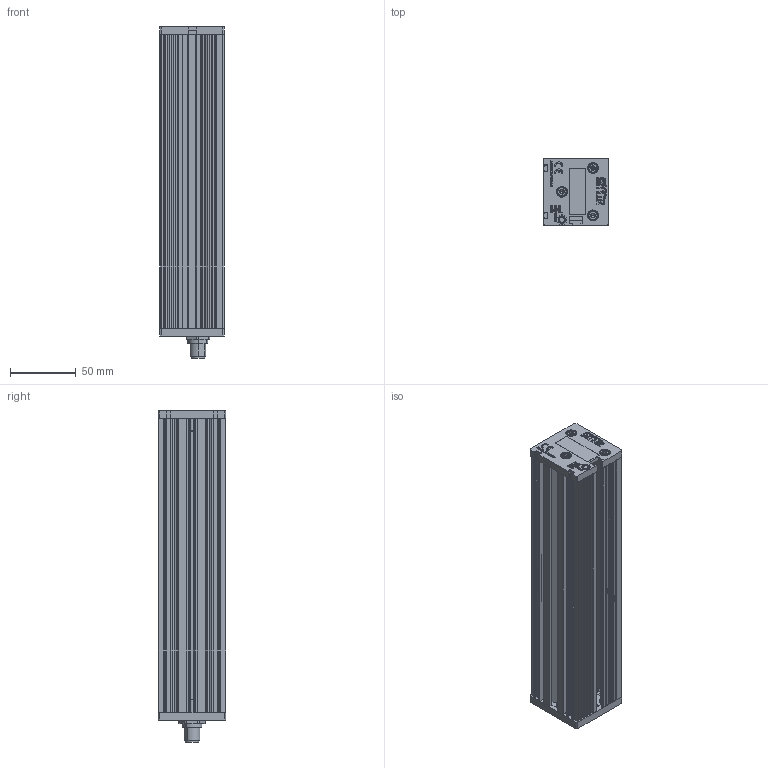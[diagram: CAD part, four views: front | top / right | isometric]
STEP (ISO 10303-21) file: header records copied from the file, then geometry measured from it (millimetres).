
FILE_DESCRIPTION (( 'STEP AP203' ), '1' );
FILE_NAME ('008846A.STEP', '2018-10-15T10:28:10', ( '' ), ( '' ), 'SwSTEP 2.0', 'SolidWorks 2018', '' );
FILE_SCHEMA (( 'CONFIG_CONTROL_DESIGN' ));
Products named in the file (2): 008846A
Bounding box: 49 x 51 x 252.2 mm (x, y, z)
Volume: 164631.8 mm3; surface area: 169807.3 mm2
Topology: 21 solids, 21 shells, 2641 faces, 7170 edges, 4763 vertices
Faces by surface type: plane 1595, bspline 553, cylinder 358, cone 134, torus 1
Full cylindrical faces by diameter (mm): 0.77 x4, 0.957 x2, 0.97 x4, 1 x4, 1.05 x4, 4.3 x3, 7 x6, 7.7 x1, 8.3 x1, 10.4 x1, 11 x1, 13 x1, 13.4 x1, 16 x1
Entity records: 122905 total; most frequent: CARTESIAN_POINT 60129, ORIENTED_EDGE 14062, DIRECTION 10856, EDGE_CURVE 7031, VECTOR 4858, LINE 4858, VERTEX_POINT 4705, AXIS2_PLACEMENT_3D 2999
